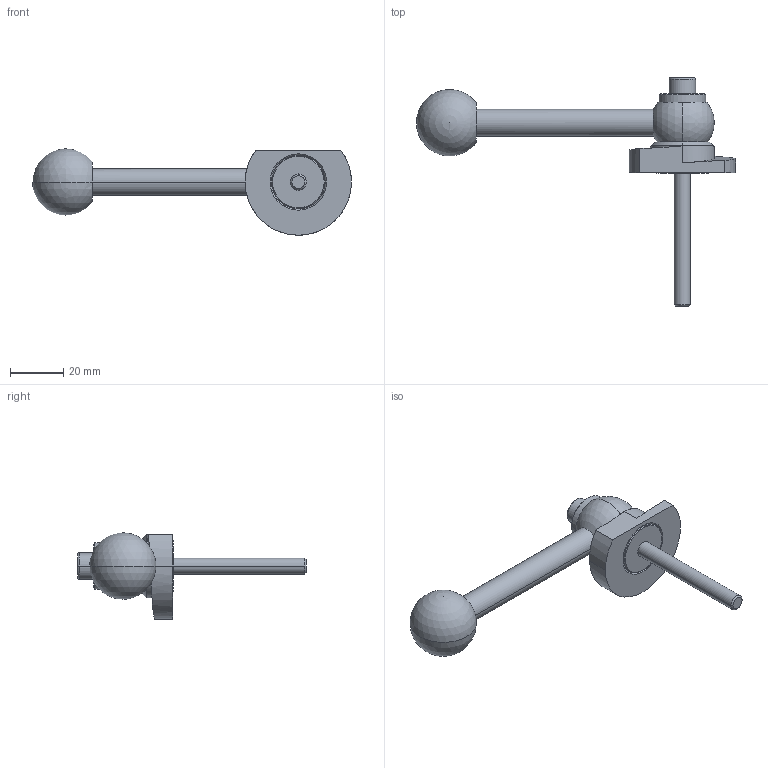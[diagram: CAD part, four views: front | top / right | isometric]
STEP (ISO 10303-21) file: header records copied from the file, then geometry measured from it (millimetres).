
FILE_DESCRIPTION (( 'STEP AP214' ), '1' );
FILE_NAME ('918.1-40-GVS-R-50.step', '2024-05-15T12:59:47', ( '' ), ( '' ), 'SwSTEP 2.0', 'SolidWorks 2022', '' );
FILE_SCHEMA (( 'AUTOMOTIVE_DESIGN' ));
Length unit declared in the file: millimetre
Products named in the file (1): 918.1-40-GVS-R-50
Bounding box: 120 x 86 x 32.5 mm (x, y, z)
Volume: 30921.4 mm3; surface area: 11681.6 mm2
Topology: 1 solids, 1 shells, 64 faces, 147 edges, 93 vertices
Faces by surface type: cylinder 22, plane 20, cone 14, sphere 4, torus 2, bspline 2
Entity records: 2045 total; most frequent: CARTESIAN_POINT 590, DIRECTION 321, ORIENTED_EDGE 274, EDGE_CURVE 137, AXIS2_PLACEMENT_3D 131, VERTEX_POINT 87, EDGE_LOOP 76, CIRCLE 68
